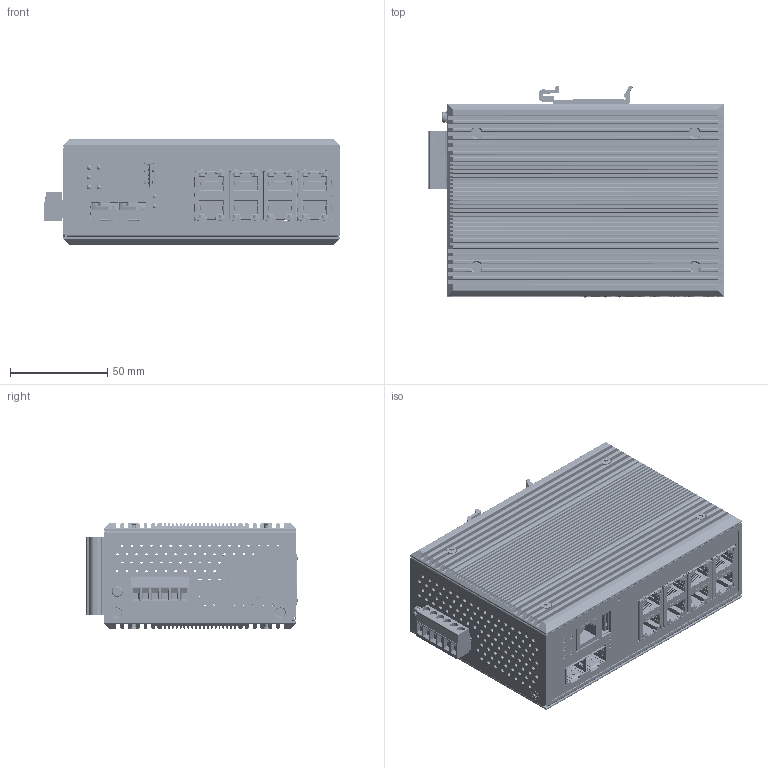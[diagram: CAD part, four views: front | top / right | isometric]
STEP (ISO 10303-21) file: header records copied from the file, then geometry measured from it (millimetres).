
FILE_DESCRIPTION(/* description */ ('STEP AP242','CAx-IF Rec.Pracs.---Representation and Presentation of Product Manufacturing Information (PMI)---4.0---2014-10-13','CAx-IF Rec.Pracs.---3D Tessellated Geometry---0.4---2014-09-14','2;1'),/* implementation_level */ '2;1');
FILE_NAME(/* name */ '6851e2a89a0ed95559dfffea',/* time_stamp */ '2025-06-17T21:48:38Z',/* author */ (''),/* organization */ (''),/* preprocessor_version */ 'ST-DEVELOPER v20',/* originating_system */ 'ONSHAPE BY PTC INC, 1.199',/* authorisation */ ' ');
FILE_SCHEMA (('AP242_MANAGED_MODEL_BASED_3D_ENGINEERING_MIM_LF { 1 0 10303 442 1 1 4 }'));
Products named in the file (96): ETH-82GM-1; D-RM1-P160_1_ANY_2_14; SCREW_M3X4_F_2_12; A-RM1-P160_1_ANY_2_3; TOP-CASE_2; D-RN2-S120_D_TYPE_RELAY-1G__ANY_2_3; LED-2; SCREW_M3X4_F_2_9; DIN_RAIL; LED-3; A-RJ_A1; SCREW_M3X4_F_2_10; SFP; A-RJ_A2; C-RM1-P160_1_ANY_2_8; A-RM1-P160_1_ANY_2_2; SCREW_M3X4_F_2_3; SCREW_M3X4_F_2_16; SCREW_M3X4_F_2_7; B-RM1-P160_1_ANY_2_5; LED-1; RMX-P110_RM2_ANY_2_2; SCREW_M3X4_F_2_11; SCREW_M3X4_F_2_6; D-RN1-P130_A_TYPE_RNX__1_ANY_2_3; B-RM1-P110-LAST_1_ANY_2_1; A-RM1-P160_1_ANY_2_1; MYLAR; A-RN1-P130_A_TYPE_RNX__1_ANY_2; SCREW_M3X4_F_2; B-RN2-S120_D_TYPE_RELAY-1G__ANY_2_1; SCREW_M3X4_F_2_14; C-RN1-P110_A_TYPE_RNX__ANY_2_2; D-RM1-P110-LAST_1_ANY_2_3; CONN-6; C-RM1-P160_1_ANY_2_9; B-RN1-P130_A_TYPE_RNX__1_ANY_2_1; SCREW_M3X4_F_2_17; RMX-P110_RM2_ANY_2; SCREW_M3X4_F_2_4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
Assembly tree (95 placements, depth 2):
  ETH-82GM-1
    D-RM1-P160_1_ANY_2_14
    SCREW_M3X4_F_2_12
    A-RM1-P160_1_ANY_2_3
    TOP-CASE_2
    D-RN2-S120_D_TYPE_RELAY-1G__ANY_2_3
    TOP-CASE_2
    LED-2
    SCREW_M3X4_F_2_9
    DIN_RAIL
    LED-3
    A-RJ_A1
    SCREW_M3X4_F_2_10
    SFP
    A-RJ_A2
    C-RM1-P160_1_ANY_2_8
    A-RM1-P160_1_ANY_2_2
    SCREW_M3X4_F_2_3
    SCREW_M3X4_F_2_16
    TOP-CASE_2
    SCREW_M3X4_F_2_7
    B-RM1-P160_1_ANY_2_5
    SFP
    LED-1
    RMX-P110_RM2_ANY_2_2
    SCREW_M3X4_F_2_11
    TOP-CASE_2
    SCREW_M3X4_F_2_6
    D-RN1-P130_A_TYPE_RNX__1_ANY_2_3
    TOP-CASE_2
    TOP-CASE_2
    B-RM1-P110-LAST_1_ANY_2_1
    A-RM1-P160_1_ANY_2_1
    MYLAR
    A-RN1-P130_A_TYPE_RNX__1_ANY_2
    TOP-CASE_2
    SCREW_M3X4_F_2
    B-RN2-S120_D_TYPE_RELAY-1G__ANY_2_1
    SCREW_M3X4_F_2_14
    TOP-CASE_2
    C-RN1-P110_A_TYPE_RNX__ANY_2_2
    D-RM1-P110-LAST_1_ANY_2_3
    CONN-6
    TOP-CASE_2
    TOP-CASE_2
    C-RM1-P160_1_ANY_2_9
    B-RN1-P130_A_TYPE_RNX__1_ANY_2_1
    TOP-CASE_2
    SCREW_M3X4_F_2_17
    RMX-P110_RM2_ANY_2
    TOP-CASE_2
    SCREW_M3X4_F_2_4
    A-RJ_A6
    PORT
    RMX-P110_RM2_ANY_2_1
    TOP-CASE_2
    RMX-P110_RM2_ANY_2_3
    C-RN2-FRONT
    SFP
    D-RM1-P160_1_ANY_2_15
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Bounding box: 151.91 x 108.35 x 54 mm (x, y, z)
Volume: 128476.6 mm3; surface area: 267153.2 mm2
Topology: 67 solids, 95 shells, 14192 faces, 40430 edges, 26200 vertices
Faces by surface type: plane 9671, cylinder 3550, torus 474, bspline 226, sphere 167, cone 104
Full cylindrical faces by diameter (mm): 0.5 x18, 0.6 x4, 1.5 x1, 1.8 x1, 1.9 x245, 2 x59, 2.3 x5, 2.8 x5, 2.9 x8, 3 x44, 3.15 x8, 3.2 x10, 3.4 x8, 3.5 x7, 3.783 x6, 4 x21, 5 x31, 5.5 x1
Entity records: 471775 total; most frequent: CARTESIAN_POINT 99638, ORIENTED_EDGE 78142, DIRECTION 73741, EDGE_CURVE 39455, LINE 30207, VECTOR 30207, VERTEX_POINT 25929, AXIS2_PLACEMENT_3D 21767
